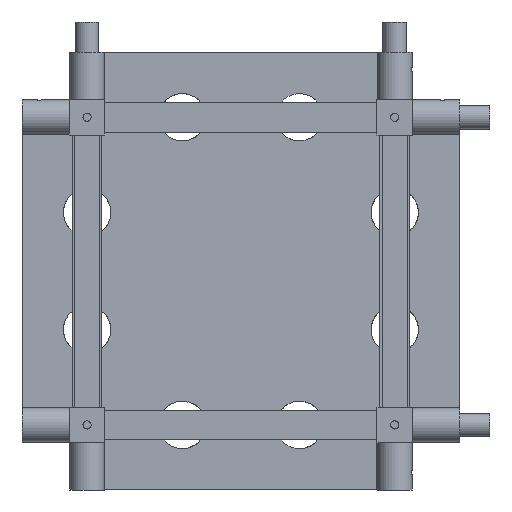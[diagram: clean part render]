
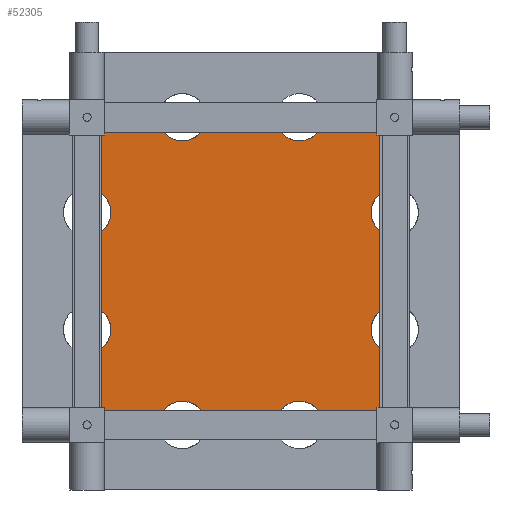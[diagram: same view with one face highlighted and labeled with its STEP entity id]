
A CAD part, front view. The second image highlights one B-rep face of the part: STEP entity #52305.
In plain terms, the highlighted planar face has unit normal (0, -1, 0).
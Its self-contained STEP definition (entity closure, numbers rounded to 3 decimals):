
#422=LINE('',#73451,#6376);
#423=LINE('',#73455,#6377);
#424=LINE('',#73457,#6378);
#425=LINE('',#73461,#6379);
#426=LINE('',#73465,#6380);
#427=LINE('',#73467,#6381);
#428=LINE('',#73471,#6382);
#429=LINE('',#73475,#6383);
#430=LINE('',#73477,#6384);
#431=LINE('',#73481,#6385);
#432=LINE('',#73485,#6386);
#433=LINE('',#73487,#6387);
#6376=VECTOR('',#59099,10.);
#6377=VECTOR('',#59102,10.);
#6378=VECTOR('',#59103,10.);
#6379=VECTOR('',#59106,10.);
#6380=VECTOR('',#59109,10.);
#6381=VECTOR('',#59110,10.);
#6382=VECTOR('',#59113,10.);
#6383=VECTOR('',#59116,10.);
#6384=VECTOR('',#59117,10.);
#6385=VECTOR('',#59120,10.);
#6386=VECTOR('',#59123,10.);
#6387=VECTOR('',#59124,10.);
#13474=FACE_OUTER_BOUND('',#16276,.T.);
#16276=EDGE_LOOP('',(#32776,#32777,#32778,#32779,#32780,#32781,#32782,#32783,
#32784,#32785,#32786,#32787,#32788,#32789,#32790,#32791,#32792,#32793,#32794,
#32795));
#19322=CIRCLE('',#55148,40.);
#19323=CIRCLE('',#55149,40.);
#19324=CIRCLE('',#55150,40.);
#19325=CIRCLE('',#55151,40.);
#19326=CIRCLE('',#55152,40.);
#19327=CIRCLE('',#55153,40.);
#19328=CIRCLE('',#55154,40.);
#19329=CIRCLE('',#55155,40.);
#20364=VERTEX_POINT('',#73449);
#20365=VERTEX_POINT('',#73450);
#20366=VERTEX_POINT('',#73452);
#20367=VERTEX_POINT('',#73454);
#20368=VERTEX_POINT('',#73456);
#20369=VERTEX_POINT('',#73458);
#20370=VERTEX_POINT('',#73460);
#20371=VERTEX_POINT('',#73462);
#20372=VERTEX_POINT('',#73464);
#20373=VERTEX_POINT('',#73466);
#20374=VERTEX_POINT('',#73468);
#20375=VERTEX_POINT('',#73470);
#20376=VERTEX_POINT('',#73472);
#20377=VERTEX_POINT('',#73474);
#20378=VERTEX_POINT('',#73476);
#20379=VERTEX_POINT('',#73478);
#20380=VERTEX_POINT('',#73480);
#20381=VERTEX_POINT('',#73482);
#20382=VERTEX_POINT('',#73484);
#20383=VERTEX_POINT('',#73486);
#25270=EDGE_CURVE('',#20364,#20365,#422,.T.);
#25271=EDGE_CURVE('',#20365,#20366,#19322,.T.);
#25272=EDGE_CURVE('',#20366,#20367,#423,.T.);
#25273=EDGE_CURVE('',#20367,#20368,#424,.T.);
#25274=EDGE_CURVE('',#20368,#20369,#19323,.T.);
#25275=EDGE_CURVE('',#20369,#20370,#425,.T.);
#25276=EDGE_CURVE('',#20370,#20371,#19324,.T.);
#25277=EDGE_CURVE('',#20371,#20372,#426,.T.);
#25278=EDGE_CURVE('',#20373,#20372,#427,.T.);
#25279=EDGE_CURVE('',#20373,#20374,#19325,.T.);
#25280=EDGE_CURVE('',#20375,#20374,#428,.T.);
#25281=EDGE_CURVE('',#20375,#20376,#19326,.T.);
#25282=EDGE_CURVE('',#20377,#20376,#429,.T.);
#25283=EDGE_CURVE('',#20377,#20378,#430,.T.);
#25284=EDGE_CURVE('',#20378,#20379,#19327,.T.);
#25285=EDGE_CURVE('',#20379,#20380,#431,.T.);
#25286=EDGE_CURVE('',#20380,#20381,#19328,.T.);
#25287=EDGE_CURVE('',#20381,#20382,#432,.T.);
#25288=EDGE_CURVE('',#20382,#20383,#433,.T.);
#25289=EDGE_CURVE('',#20383,#20364,#19329,.T.);
#32776=ORIENTED_EDGE('',*,*,#25270,.T.);
#32777=ORIENTED_EDGE('',*,*,#25271,.T.);
#32778=ORIENTED_EDGE('',*,*,#25272,.T.);
#32779=ORIENTED_EDGE('',*,*,#25273,.T.);
#32780=ORIENTED_EDGE('',*,*,#25274,.T.);
#32781=ORIENTED_EDGE('',*,*,#25275,.T.);
#32782=ORIENTED_EDGE('',*,*,#25276,.T.);
#32783=ORIENTED_EDGE('',*,*,#25277,.T.);
#32784=ORIENTED_EDGE('',*,*,#25278,.F.);
#32785=ORIENTED_EDGE('',*,*,#25279,.T.);
#32786=ORIENTED_EDGE('',*,*,#25280,.F.);
#32787=ORIENTED_EDGE('',*,*,#25281,.T.);
#32788=ORIENTED_EDGE('',*,*,#25282,.F.);
#32789=ORIENTED_EDGE('',*,*,#25283,.T.);
#32790=ORIENTED_EDGE('',*,*,#25284,.T.);
#32791=ORIENTED_EDGE('',*,*,#25285,.T.);
#32792=ORIENTED_EDGE('',*,*,#25286,.T.);
#32793=ORIENTED_EDGE('',*,*,#25287,.T.);
#32794=ORIENTED_EDGE('',*,*,#25288,.T.);
#32795=ORIENTED_EDGE('',*,*,#25289,.T.);
#47342=PLANE('',#55147);
#52305=ADVANCED_FACE('',(#13474),#47342,.F.);
#55147=AXIS2_PLACEMENT_3D('',#73448,#59097,#59098);
#55148=AXIS2_PLACEMENT_3D('',#73453,#59100,#59101);
#55149=AXIS2_PLACEMENT_3D('',#73459,#59104,#59105);
#55150=AXIS2_PLACEMENT_3D('',#73463,#59107,#59108);
#55151=AXIS2_PLACEMENT_3D('',#73469,#59111,#59112);
#55152=AXIS2_PLACEMENT_3D('',#73473,#59114,#59115);
#55153=AXIS2_PLACEMENT_3D('',#73479,#59118,#59119);
#55154=AXIS2_PLACEMENT_3D('',#73483,#59121,#59122);
#55155=AXIS2_PLACEMENT_3D('',#73488,#59125,#59126);
#59097=DIRECTION('center_axis',(0.,1.,0.));
#59098=DIRECTION('ref_axis',(0.,0.,
1.));
#59099=DIRECTION('',(1.,0.,0.));
#59100=DIRECTION('center_axis',(0.,1.,0.));
#59101=DIRECTION('ref_axis',(-1.,0.,0.));
#59102=DIRECTION('',(1.,0.,0.));
#59103=DIRECTION('',(0.,0.,1.));
#59104=DIRECTION('center_axis',(0.,1.,0.));
#59105=DIRECTION('ref_axis',(-1.,0.,0.));
#59106=DIRECTION('',(0.,0.,1.));
#59107=DIRECTION('center_axis',(0.,1.,0.));
#59108=DIRECTION('ref_axis',(-1.,0.,0.));
#59109=DIRECTION('',(0.,0.,1.));
#59110=DIRECTION('',(1.,0.,0.));
#59111=DIRECTION('center_axis',(0.,1.,0.));
#59112=DIRECTION('ref_axis',(-1.,0.,0.));
#59113=DIRECTION('',(1.,0.,0.));
#59114=DIRECTION('center_axis',(0.,1.,0.));
#59115=DIRECTION('ref_axis',(-1.,0.,0.));
#59116=DIRECTION('',(1.,0.,0.));
#59117=DIRECTION('',(0.,0.,-1.));
#59118=DIRECTION('center_axis',(0.,1.,0.));
#59119=DIRECTION('ref_axis',(-1.,0.,0.));
#59120=DIRECTION('',(0.,0.,-1.));
#59121=DIRECTION('center_axis',(0.,1.,0.));
#59122=DIRECTION('ref_axis',(-1.,0.,0.));
#59123=DIRECTION('',(0.,0.,-1.));
#59124=DIRECTION('',(1.,0.,0.));
#59125=DIRECTION('center_axis',(0.,1.,0.));
#59126=DIRECTION('ref_axis',(-1.,0.,0.));
#73448=CARTESIAN_POINT('Origin',(370.,74.,-260.));
#73449=CARTESIAN_POINT('',(302.18,74.,-495.));
#73450=CARTESIAN_POINT('',(437.82,74.,-495.));
#73451=CARTESIAN_POINT('',(127.,74.,-495.));
#73452=CARTESIAN_POINT('',(500.27,74.,-495.));
#73453=CARTESIAN_POINT('Origin',(469.045,74.,-520.));
#73454=CARTESIAN_POINT('',(605.,74.,-495.));
#73455=CARTESIAN_POINT('',(127.,74.,-495.));
#73456=CARTESIAN_POINT('',(605.,74.,-390.27));
#73457=CARTESIAN_POINT('',(605.,74.,-503.));
#73458=CARTESIAN_POINT('',(605.,74.,-327.82));
#73459=CARTESIAN_POINT('Origin',(630.,74.,-359.045));
#73460=CARTESIAN_POINT('',(605.,74.,-192.18));
#73461=CARTESIAN_POINT('',(605.,74.,-503.));
#73462=CARTESIAN_POINT('',(605.,74.,-129.73));
#73463=CARTESIAN_POINT('Origin',(630.,74.,-160.955));
#73464=CARTESIAN_POINT('',(605.,74.,-25.));
#73465=CARTESIAN_POINT('',(605.,74.,-503.));
#73466=CARTESIAN_POINT('',(500.27,74.,-25.));
#73467=CARTESIAN_POINT('',(127.,74.,-25.));
#73468=CARTESIAN_POINT('',(437.82,74.,-25.));
#73469=CARTESIAN_POINT('Origin',(469.045,74.,0.));
#73470=CARTESIAN_POINT('',(302.18,74.,-25.));
#73471=CARTESIAN_POINT('',(127.,74.,-25.));
#73472=CARTESIAN_POINT('',(239.73,74.,-25.));
#73473=CARTESIAN_POINT('Origin',(270.955,74.,0.));
#73474=CARTESIAN_POINT('',(135.,74.,-25.));
#73475=CARTESIAN_POINT('',(127.,74.,-25.));
#73476=CARTESIAN_POINT('',(135.,74.,-129.73));
#73477=CARTESIAN_POINT('',(135.,74.,-17.));
#73478=CARTESIAN_POINT('',(135.,74.,-192.18));
#73479=CARTESIAN_POINT('Origin',(110.,74.,-160.955));
#73480=CARTESIAN_POINT('',(135.,74.,-327.82));
#73481=CARTESIAN_POINT('',(135.,74.,-17.));
#73482=CARTESIAN_POINT('',(135.,74.,-390.27));
#73483=CARTESIAN_POINT('Origin',(110.,74.,-359.045));
#73484=CARTESIAN_POINT('',(135.,74.,-495.));
#73485=CARTESIAN_POINT('',(135.,74.,-17.));
#73486=CARTESIAN_POINT('',(239.73,74.,-495.));
#73487=CARTESIAN_POINT('',(127.,74.,-495.));
#73488=CARTESIAN_POINT('Origin',(270.955,74.,-520.));
